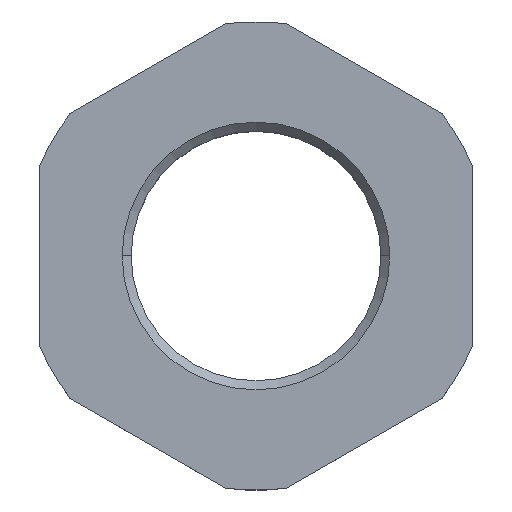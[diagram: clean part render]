
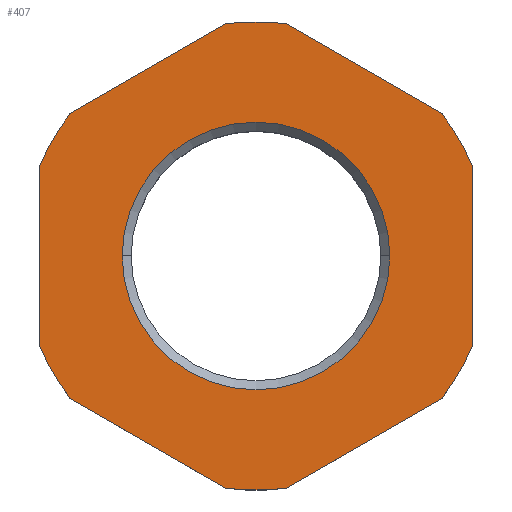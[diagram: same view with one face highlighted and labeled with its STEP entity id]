
A CAD part, top view. The second image highlights one B-rep face of the part: STEP entity #407.
In plain terms, the highlighted planar face has unit normal (0, 0, 1).
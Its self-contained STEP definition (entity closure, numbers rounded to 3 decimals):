
#7 = CARTESIAN_POINT ( 'NONE',  ( 12., -5., 0. ) ) ;
#13 = DIRECTION ( 'NONE',  ( 0., -1., 0. ) ) ;
#14 = VECTOR ( 'NONE', #13, 1000. ) ;
#42 = CARTESIAN_POINT ( 'NONE',  ( 12., 5., 0. ) ) ;
#96 = CARTESIAN_POINT ( 'NONE',  ( 12., 0., 0. ) ) ;
#97 = LINE ( 'NONE', #96, #14 ) ;
#185 = EDGE_CURVE ( 'NONE', #186, #882, #729, .T. ) ;
#186 = VERTEX_POINT ( 'NONE', #700 ) ;
#257 = EDGE_LOOP ( 'NONE', ( #258, #273, #274, #346, #347, #327, #259, #344, #412, #303, #383, #402 ) ) ;
#258 = ORIENTED_EDGE ( 'NONE', *, *, #271, .F. ) ;
#259 = ORIENTED_EDGE ( 'NONE', *, *, #318, .F. ) ;
#260 = VERTEX_POINT ( 'NONE', #816 ) ;
#271 = EDGE_CURVE ( 'NONE', #996, #987, #829, .T. ) ;
#273 = ORIENTED_EDGE ( 'NONE', *, *, #991, .T. ) ;
#274 = ORIENTED_EDGE ( 'NONE', *, *, #345, .F. ) ;
#303 = ORIENTED_EDGE ( 'NONE', *, *, #985, .T. ) ;
#316 = ORIENTED_EDGE ( 'NONE', *, *, #185, .T. ) ;
#317 = ORIENTED_EDGE ( 'NONE', *, *, #326, .T. ) ;
#318 = EDGE_CURVE ( 'NONE', #955, #935, #1069, .T. ) ;
#326 = EDGE_CURVE ( 'NONE', #882, #186, #1126, .T. ) ;
#327 = ORIENTED_EDGE ( 'NONE', *, *, #934, .T. ) ;
#344 = ORIENTED_EDGE ( 'NONE', *, *, #958, .T. ) ;
#345 = EDGE_CURVE ( 'NONE', #260, #993, #1146, .T. ) ;
#346 = ORIENTED_EDGE ( 'NONE', *, *, #406, .T. ) ;
#347 = ORIENTED_EDGE ( 'NONE', *, *, #381, .F. ) ;
#349 = EDGE_CURVE ( 'NONE', #952, #951, #1181, .T. ) ;
#381 = EDGE_CURVE ( 'NONE', #938, #404, #1242, .T. ) ;
#383 = ORIENTED_EDGE ( 'NONE', *, *, #349, .F. ) ;
#402 = ORIENTED_EDGE ( 'NONE', *, *, #950, .T. ) ;
#404 = VERTEX_POINT ( 'NONE', #1250 ) ;
#406 = EDGE_CURVE ( 'NONE', #260, #404, #1104, .T. ) ;
#407 = ADVANCED_FACE ( 'NONE', ( #1285, #1256 ), #1272, .F. ) ;
#408 = EDGE_LOOP ( 'NONE', ( #316, #317 ) ) ;
#412 = ORIENTED_EDGE ( 'NONE', *, *, #1023, .F. ) ;
#700 = CARTESIAN_POINT ( 'NONE',  ( 7.43, 0., 0. ) ) ;
#725 = DIRECTION ( 'NONE',  ( -1., 0., 0. ) ) ;
#726 = DIRECTION ( 'NONE',  ( 0., 0., -1. ) ) ;
#727 = CARTESIAN_POINT ( 'NONE',  ( 0., 0., 0. ) ) ;
#728 = AXIS2_PLACEMENT_3D ( 'NONE', #727, #726, #725 ) ;
#729 = CIRCLE ( 'NONE', #728, 7.43 ) ;
#813 = DIRECTION ( 'NONE',  ( 0.866, 0.5, 0. ) ) ;
#814 = VECTOR ( 'NONE', #813, 1000. ) ;
#816 = CARTESIAN_POINT ( 'NONE',  ( -12., -5., 0. ) ) ;
#828 = CARTESIAN_POINT ( 'NONE',  ( -6., 10.392, 0. ) ) ;
#829 = LINE ( 'NONE', #828, #814 ) ;
#882 = VERTEX_POINT ( 'NONE', #1947 ) ;
#934 = EDGE_CURVE ( 'NONE', #938, #935, #1952, .T. ) ;
#935 = VERTEX_POINT ( 'NONE', #1953 ) ;
#938 = VERTEX_POINT ( 'NONE', #1963 ) ;
#950 = EDGE_CURVE ( 'NONE', #952, #987, #1512, .T. ) ;
#951 = VERTEX_POINT ( 'NONE', #1514 ) ;
#952 = VERTEX_POINT ( 'NONE', #1513 ) ;
#955 = VERTEX_POINT ( 'NONE', #1532 ) ;
#958 = EDGE_CURVE ( 'NONE', #955, #1024, #1526, .T. ) ;
#985 = EDGE_CURVE ( 'NONE', #1034, #951, #1563, .T. ) ;
#987 = VERTEX_POINT ( 'NONE', #1558 ) ;
#991 = EDGE_CURVE ( 'NONE', #996, #993, #1582, .T. ) ;
#993 = VERTEX_POINT ( 'NONE', #1605 ) ;
#996 = VERTEX_POINT ( 'NONE', #1584 ) ;
#1023 = EDGE_CURVE ( 'NONE', #1034, #1024, #97, .T. ) ;
#1024 = VERTEX_POINT ( 'NONE', #7 ) ;
#1034 = VERTEX_POINT ( 'NONE', #42 ) ;
#1069 = LINE ( 'NONE', #1098, #1097 ) ;
#1080 = DIRECTION ( 'NONE',  ( -0.866, -0.5, 0. ) ) ;
#1097 = VECTOR ( 'NONE', #1080, 1000. ) ;
#1098 = CARTESIAN_POINT ( 'NONE',  ( 6., -10.392, 0. ) ) ;
#1104 = CIRCLE ( 'NONE', #1189, 13. ) ;
#1125 = CARTESIAN_POINT ( 'NONE',  ( 0., 0., 0. ) ) ;
#1126 = CIRCLE ( 'NONE', #1134, 7.43 ) ;
#1132 = DIRECTION ( 'NONE',  ( -1., 0., 0. ) ) ;
#1133 = DIRECTION ( 'NONE',  ( 0., 0., -1. ) ) ;
#1134 = AXIS2_PLACEMENT_3D ( 'NONE', #1125, #1133, #1132 ) ;
#1136 = DIRECTION ( 'NONE',  ( 0.866, -0.5, 0. ) ) ;
#1141 = DIRECTION ( 'NONE',  ( 0., 1., 0. ) ) ;
#1142 = VECTOR ( 'NONE', #1141, 1000. ) ;
#1145 = CARTESIAN_POINT ( 'NONE',  ( -12., 0., 0. ) ) ;
#1146 = LINE ( 'NONE', #1145, #1142 ) ;
#1179 = VECTOR ( 'NONE', #1136, 1000. ) ;
#1180 = CARTESIAN_POINT ( 'NONE',  ( 6., 10.392, 0. ) ) ;
#1181 = LINE ( 'NONE', #1180, #1179 ) ;
#1182 = DIRECTION ( 'NONE',  ( 0., 0., 1. ) ) ;
#1183 = CARTESIAN_POINT ( 'NONE',  ( 0., 0., 0. ) ) ;
#1189 = AXIS2_PLACEMENT_3D ( 'NONE', #1183, #1182, #1200 ) ;
#1200 = DIRECTION ( 'NONE',  ( 1., 0., 0. ) ) ;
#1234 = CARTESIAN_POINT ( 'NONE',  ( -6., -10.392, 0. ) ) ;
#1235 = DIRECTION ( 'NONE',  ( -0.866, 0.5, 0. ) ) ;
#1236 = VECTOR ( 'NONE', #1235, 1000. ) ;
#1242 = LINE ( 'NONE', #1234, #1236 ) ;
#1250 = CARTESIAN_POINT ( 'NONE',  ( -10.33, -7.892, 0. ) ) ;
#1256 = FACE_OUTER_BOUND ( 'NONE', #257, .T. ) ;
#1259 = DIRECTION ( 'NONE',  ( 0., 0., -1. ) ) ;
#1260 = CARTESIAN_POINT ( 'NONE',  ( 0., 0., 0. ) ) ;
#1269 = AXIS2_PLACEMENT_3D ( 'NONE', #1260, #1259, #1286 ) ;
#1272 = PLANE ( 'NONE',  #1269 ) ;
#1285 = FACE_BOUND ( 'NONE', #408, .T. ) ;
#1286 = DIRECTION ( 'NONE',  ( -1., 0., 0. ) ) ;
#1465 = DIRECTION ( 'NONE',  ( 1., 0., 0. ) ) ;
#1466 = DIRECTION ( 'NONE',  ( 0., 0., 1. ) ) ;
#1494 = DIRECTION ( 'NONE',  ( 1., 0., 0. ) ) ;
#1499 = CARTESIAN_POINT ( 'NONE',  ( 0., 0., 0. ) ) ;
#1500 = AXIS2_PLACEMENT_3D ( 'NONE', #1499, #1466, #1465 ) ;
#1502 = DIRECTION ( 'NONE',  ( 0., 0., 1. ) ) ;
#1503 = CARTESIAN_POINT ( 'NONE',  ( 0., 0., 0. ) ) ;
#1504 = AXIS2_PLACEMENT_3D ( 'NONE', #1503, #1502, #1494 ) ;
#1512 = CIRCLE ( 'NONE', #1500, 13. ) ;
#1513 = CARTESIAN_POINT ( 'NONE',  ( 1.67, 12.892, 0. ) ) ;
#1514 = CARTESIAN_POINT ( 'NONE',  ( 10.33, 7.892, 0. ) ) ;
#1526 = CIRCLE ( 'NONE', #1504, 13. ) ;
#1532 = CARTESIAN_POINT ( 'NONE',  ( 10.33, -7.892, 0. ) ) ;
#1558 = CARTESIAN_POINT ( 'NONE',  ( -1.67, 12.892, 0. ) ) ;
#1559 = DIRECTION ( 'NONE',  ( 1., 0., 0. ) ) ;
#1560 = DIRECTION ( 'NONE',  ( 0., 0., 1. ) ) ;
#1561 = CARTESIAN_POINT ( 'NONE',  ( 0., 0., 0. ) ) ;
#1562 = AXIS2_PLACEMENT_3D ( 'NONE', #1561, #1560, #1559 ) ;
#1563 = CIRCLE ( 'NONE', #1562, 13. ) ;
#1578 = DIRECTION ( 'NONE',  ( 1., 0., 0. ) ) ;
#1579 = DIRECTION ( 'NONE',  ( 0., 0., 1. ) ) ;
#1580 = CARTESIAN_POINT ( 'NONE',  ( 0., 0., 0. ) ) ;
#1581 = AXIS2_PLACEMENT_3D ( 'NONE', #1580, #1579, #1578 ) ;
#1582 = CIRCLE ( 'NONE', #1581, 13. ) ;
#1584 = CARTESIAN_POINT ( 'NONE',  ( -10.33, 7.892, 0. ) ) ;
#1605 = CARTESIAN_POINT ( 'NONE',  ( -12., 5., 0. ) ) ;
#1947 = CARTESIAN_POINT ( 'NONE',  ( -7.43, 0., 0. ) ) ;
#1948 = DIRECTION ( 'NONE',  ( 1., 0., 0. ) ) ;
#1949 = DIRECTION ( 'NONE',  ( 0., 0., 1. ) ) ;
#1950 = AXIS2_PLACEMENT_3D ( 'NONE', #1968, #1949, #1948 ) ;
#1952 = CIRCLE ( 'NONE', #1950, 13. ) ;
#1953 = CARTESIAN_POINT ( 'NONE',  ( 1.67, -12.892, 0. ) ) ;
#1963 = CARTESIAN_POINT ( 'NONE',  ( -1.67, -12.892, 0. ) ) ;
#1968 = CARTESIAN_POINT ( 'NONE',  ( 0., 0., 0. ) ) ;
